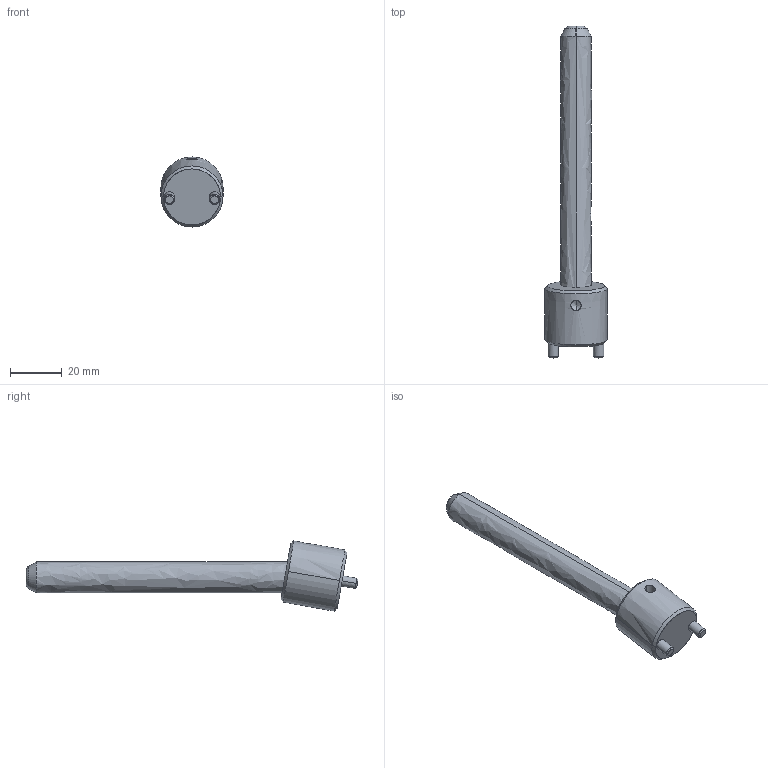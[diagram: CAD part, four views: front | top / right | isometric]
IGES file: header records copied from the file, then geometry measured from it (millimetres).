
Start section: START RECORD GO HERE.
Global section: file name: CI1012100.igs; native system: DASSAULT SYSTEMES CATIA V5 R20 - www.3ds.com; preprocessor: CATIA Version 5 Release 20 ; author: r.borello; organization: CFTORINO; date: 20190620.160924; units: millimetre
Bounding box: 24 x 128.27 x 27.11 mm (x, y, z)
Surface area: 7972.9 mm2 (no closed solid volume)
Topology: 0 solids, 0 shells, 39 faces, 162 edges, 160 vertices
Faces by surface type: revolution 32, plane 7
